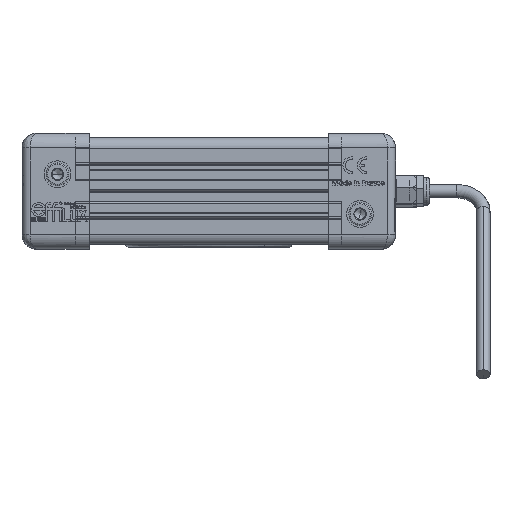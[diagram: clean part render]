
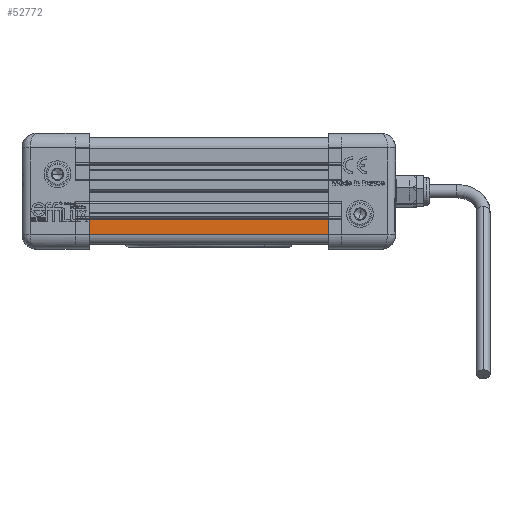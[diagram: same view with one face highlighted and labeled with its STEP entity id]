
A CAD part, front view. The second image highlights one B-rep face of the part: STEP entity #52772.
In plain terms, the highlighted planar face has unit normal (0, -1, 0) as drawn and (-1, 0, 0) by its records, which use the part's own axes.
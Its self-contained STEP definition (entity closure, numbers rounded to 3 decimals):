
#1199 = AXIS2_PLACEMENT_3D ( 'NONE', #16302, #22207, #27664 ) ;
#7971 = DIRECTION ( 'NONE',  ( 0., 0., -1. ) ) ;
#16302 = CARTESIAN_POINT ( 'NONE',  ( -9., -10.5, 99. ) ) ;
#16604 = EDGE_LOOP ( 'NONE', ( #60750, #55995, #29759, #31750 ) ) ;
#19317 = EDGE_CURVE ( 'NONE', #58668, #20012, #69696, .T. ) ;
#20012 = VERTEX_POINT ( 'NONE', #48414 ) ;
#20449 = CARTESIAN_POINT ( 'NONE',  ( -9., -10.5, 0. ) ) ;
#22207 = DIRECTION ( 'NONE',  ( 1., 0., 0. ) ) ;
#22406 = LINE ( 'NONE', #51562, #70408 ) ;
#22759 = DIRECTION ( 'NONE',  ( 0., 0., -1. ) ) ;
#24920 = CARTESIAN_POINT ( 'NONE',  ( -9., -10.5, 99. ) ) ;
#26319 = DIRECTION ( 'NONE',  ( 0., -1., 0. ) ) ;
#27664 = DIRECTION ( 'NONE',  ( 0., 1., 0. ) ) ;
#29759 = ORIENTED_EDGE ( 'NONE', *, *, #48177, .F. ) ;
#29939 = CARTESIAN_POINT ( 'NONE',  ( -9., -16., 99. ) ) ;
#31750 = ORIENTED_EDGE ( 'NONE', *, *, #59538, .T. ) ;
#33512 = FACE_OUTER_BOUND ( 'NONE', #16604, .T. ) ;
#34232 = PLANE ( 'NONE',  #1199 ) ;
#37568 = CARTESIAN_POINT ( 'NONE',  ( -9., -10.5, 99. ) ) ;
#37577 = VERTEX_POINT ( 'NONE', #20449 ) ;
#39071 = CARTESIAN_POINT ( 'NONE',  ( -9., -10.5, 0. ) ) ;
#43254 = CARTESIAN_POINT ( 'NONE',  ( -9., -16., 99. ) ) ;
#45362 = VECTOR ( 'NONE', #53745, 1000. ) ;
#48177 = EDGE_CURVE ( 'NONE', #51148, #58668, #54453, .T. ) ;
#48414 = CARTESIAN_POINT ( 'NONE',  ( -9., -16., 0. ) ) ;
#51148 = VERTEX_POINT ( 'NONE', #37568 ) ;
#51562 = CARTESIAN_POINT ( 'NONE',  ( -9., -10.5, 99. ) ) ;
#52772 = ADVANCED_FACE ( 'NONE', ( #33512 ), #34232, .F. ) ;
#53745 = DIRECTION ( 'NONE',  ( 0., -1., 0. ) ) ;
#54453 = LINE ( 'NONE', #24920, #45362 ) ;
#55995 = ORIENTED_EDGE ( 'NONE', *, *, #19317, .F. ) ;
#58668 = VERTEX_POINT ( 'NONE', #43254 ) ;
#59538 = EDGE_CURVE ( 'NONE', #51148, #37577, #22406, .T. ) ;
#60750 = ORIENTED_EDGE ( 'NONE', *, *, #63258, .T. ) ;
#63258 = EDGE_CURVE ( 'NONE', #37577, #20012, #65388, .T. ) ;
#64950 = VECTOR ( 'NONE', #26319, 1000. ) ;
#65388 = LINE ( 'NONE', #39071, #64950 ) ;
#69696 = LINE ( 'NONE', #29939, #71083 ) ;
#70408 = VECTOR ( 'NONE', #22759, 1000. ) ;
#71083 = VECTOR ( 'NONE', #7971, 1000. ) ;
